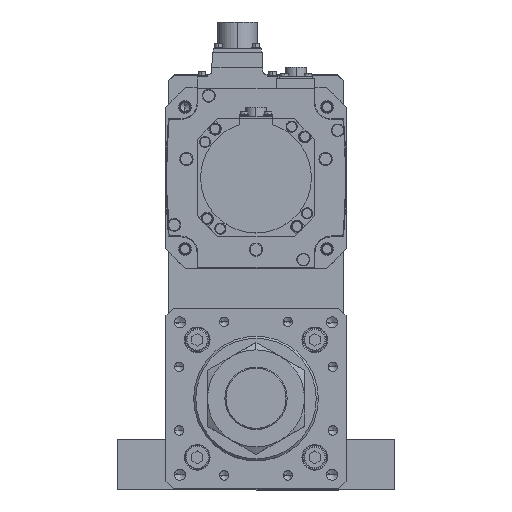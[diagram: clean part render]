
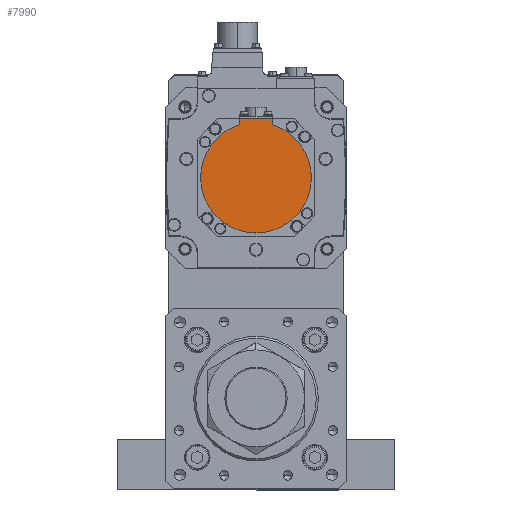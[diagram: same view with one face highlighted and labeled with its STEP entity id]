
A CAD part, top view. The second image highlights one B-rep face of the part: STEP entity #7990.
In plain terms, the highlighted planar face has unit normal (0, 0, 1) as drawn and (0, 0, -1) by its records, which use the part's own axes.
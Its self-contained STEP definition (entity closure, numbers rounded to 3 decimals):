
#649 = DIRECTION ( 'NONE',  ( 0., 1., 0. ) ) ;
#766 = LINE ( 'NONE', #13873, #31504 ) ;
#855 = CIRCLE ( 'NONE', #13962, 40. ) ;
#2254 = CARTESIAN_POINT ( 'NONE',  ( -12., -38.158, -181. ) ) ;
#2357 = FACE_OUTER_BOUND ( 'NONE', #18597, .T. ) ;
#2395 = DIRECTION ( 'NONE',  ( 1., 0., 0. ) ) ;
#2810 = CIRCLE ( 'NONE', #37471, 40. ) ;
#3050 = VERTEX_POINT ( 'NONE', #24241 ) ;
#3331 = CARTESIAN_POINT ( 'NONE',  ( 12., -38.158, -181. ) ) ;
#5286 = ORIENTED_EDGE ( 'NONE', *, *, #31413, .T. ) ;
#5834 = ORIENTED_EDGE ( 'NONE', *, *, #38443, .F. ) ;
#6681 = CARTESIAN_POINT ( 'NONE',  ( 0., 0., -181. ) ) ;
#7244 = DIRECTION ( 'NONE',  ( 1., 0., 0. ) ) ;
#7315 = CIRCLE ( 'NONE', #27708, 40. ) ;
#7641 = PLANE ( 'NONE',  #32144 ) ;
#7990 = ADVANCED_FACE ( 'NONE', ( #2357 ), #7641, .F. ) ;
#8039 = DIRECTION ( 'NONE',  ( 0., 0., 1. ) ) ;
#8350 = EDGE_CURVE ( 'NONE', #3050, #26754, #2810, .T. ) ;
#8877 = EDGE_CURVE ( 'NONE', #9055, #22719, #15908, .T. ) ;
#9055 = VERTEX_POINT ( 'NONE', #19226 ) ;
#9090 = VECTOR ( 'NONE', #649, 1000. ) ;
#9576 = DIRECTION ( 'NONE',  ( 0., 0., 1. ) ) ;
#13311 = CARTESIAN_POINT ( 'NONE',  ( 0., -1.25, -181. ) ) ;
#13873 = CARTESIAN_POINT ( 'NONE',  ( -12., -40.329, -181. ) ) ;
#13962 = AXIS2_PLACEMENT_3D ( 'NONE', #37735, #19431, #19299 ) ;
#14795 = DIRECTION ( 'NONE',  ( 0., 1., 0. ) ) ;
#15908 = LINE ( 'NONE', #33378, #22574 ) ;
#16877 = ORIENTED_EDGE ( 'NONE', *, *, #21091, .F. ) ;
#17784 = EDGE_CURVE ( 'NONE', #9055, #38882, #36086, .T. ) ;
#18597 = EDGE_LOOP ( 'NONE', ( #5286, #25090, #16877, #5834, #23124, #35437 ) ) ;
#19226 = CARTESIAN_POINT ( 'NONE',  ( 12., -42.5, -181. ) ) ;
#19299 = DIRECTION ( 'NONE',  ( 1., 0., 0. ) ) ;
#19431 = DIRECTION ( 'NONE',  ( 0., 0., 1. ) ) ;
#19627 = VERTEX_POINT ( 'NONE', #24155 ) ;
#21091 = EDGE_CURVE ( 'NONE', #19627, #3050, #7315, .T. ) ;
#21164 = DIRECTION ( 'NONE',  ( -1., 0., 0. ) ) ;
#22574 = VECTOR ( 'NONE', #21164, 1000. ) ;
#22719 = VERTEX_POINT ( 'NONE', #38534 ) ;
#23124 = ORIENTED_EDGE ( 'NONE', *, *, #17784, .F. ) ;
#24155 = CARTESIAN_POINT ( 'NONE',  ( 40., 0., -181. ) ) ;
#24241 = CARTESIAN_POINT ( 'NONE',  ( -40., 0., -181. ) ) ;
#24664 = DIRECTION ( 'NONE',  ( 1., 0., 0. ) ) ;
#25090 = ORIENTED_EDGE ( 'NONE', *, *, #8350, .F. ) ;
#26754 = VERTEX_POINT ( 'NONE', #2254 ) ;
#27708 = AXIS2_PLACEMENT_3D ( 'NONE', #38339, #8039, #2395 ) ;
#28950 = DIRECTION ( 'NONE',  ( 0., 0., 1. ) ) ;
#31413 = EDGE_CURVE ( 'NONE', #22719, #26754, #766, .T. ) ;
#31504 = VECTOR ( 'NONE', #14795, 1000. ) ;
#32144 = AXIS2_PLACEMENT_3D ( 'NONE', #13311, #28950, #7244 ) ;
#33378 = CARTESIAN_POINT ( 'NONE',  ( 0., -42.5, -181. ) ) ;
#34214 = CARTESIAN_POINT ( 'NONE',  ( 12., -1.25, -181. ) ) ;
#35437 = ORIENTED_EDGE ( 'NONE', *, *, #8877, .T. ) ;
#36086 = LINE ( 'NONE', #34214, #9090 ) ;
#37471 = AXIS2_PLACEMENT_3D ( 'NONE', #6681, #9576, #24664 ) ;
#37735 = CARTESIAN_POINT ( 'NONE',  ( 0., 0., -181. ) ) ;
#38339 = CARTESIAN_POINT ( 'NONE',  ( 0., 0., -181. ) ) ;
#38443 = EDGE_CURVE ( 'NONE', #38882, #19627, #855, .T. ) ;
#38534 = CARTESIAN_POINT ( 'NONE',  ( -12., -42.5, -181. ) ) ;
#38882 = VERTEX_POINT ( 'NONE', #3331 ) ;
